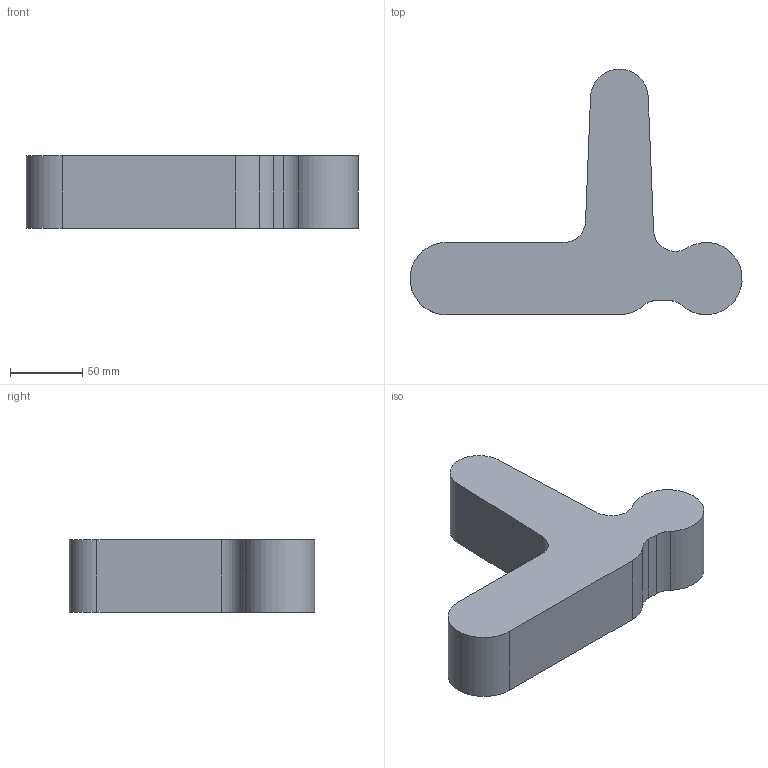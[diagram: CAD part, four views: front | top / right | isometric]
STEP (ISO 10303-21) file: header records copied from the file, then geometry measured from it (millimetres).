
FILE_DESCRIPTION(/* description */ (''),/* implementation_level */ '2;1');
FILE_NAME(/* name */ 'Modify_1 v1.step',/* time_stamp */ '2023-01-16T16:35:57+03:00',/* author */ (''),/* organization */ (''),/* preprocessor_version */ 'ST-DEVELOPER v19.2',/* originating_system */ 'Autodesk Translation Framework v11.17.0.187',/* authorisation */ '');
FILE_SCHEMA (('AUTOMOTIVE_DESIGN { 1 0 10303 214 3 1 1 }'));
Length unit declared in the file: millimetre
Products named in the file (1): Modify_1
Bounding box: 229.92 x 170 x 50 mm (x, y, z)
Volume: 781152.7 mm3; surface area: 67861 mm2
Topology: 1 solids, 1 shells, 15 faces, 39 edges, 26 vertices
Faces by surface type: cylinder 8, plane 7
Entity records: 502 total; most frequent: DIRECTION 87, CARTESIAN_POINT 81, ORIENTED_EDGE 78, EDGE_CURVE 39, AXIS2_PLACEMENT_3D 32, VERTEX_POINT 26, LINE 23, VECTOR 23
